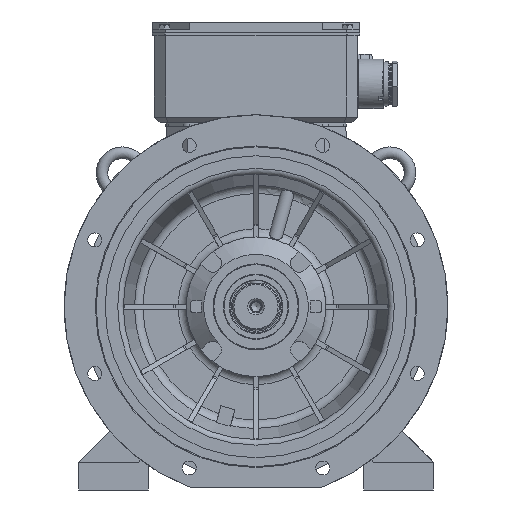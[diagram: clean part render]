
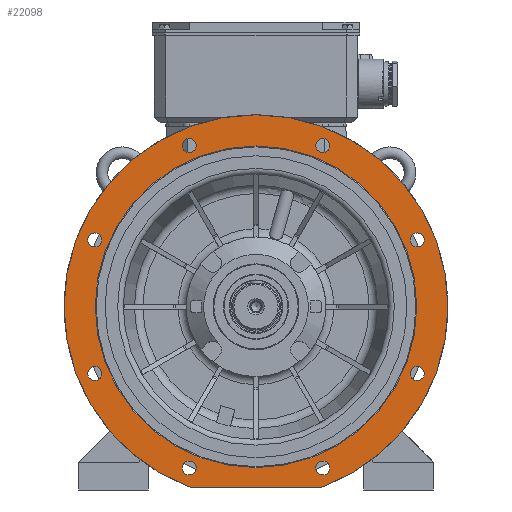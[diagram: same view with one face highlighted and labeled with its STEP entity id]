
A CAD part, front view. The second image highlights one B-rep face of the part: STEP entity #22098.
In plain terms, the highlighted planar face has unit normal (0, -1, 0).
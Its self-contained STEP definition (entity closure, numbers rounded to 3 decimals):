
#1244=LINE('',#41488,#3182);
#3182=VECTOR('',#34831,1000.);
#6511=ORIENTED_EDGE('',*,*,#11713,.F.);
#6512=ORIENTED_EDGE('',*,*,#11715,.F.);
#6513=ORIENTED_EDGE('',*,*,#11717,.F.);
#6514=ORIENTED_EDGE('',*,*,#11719,.F.);
#6515=ORIENTED_EDGE('',*,*,#11721,.F.);
#6516=ORIENTED_EDGE('',*,*,#11723,.F.);
#6517=ORIENTED_EDGE('',*,*,#11725,.F.);
#6518=ORIENTED_EDGE('',*,*,#11727,.F.);
#6519=ORIENTED_EDGE('',*,*,#12279,.F.);
#6520=ORIENTED_EDGE('',*,*,#11962,.T.);
#6521=ORIENTED_EDGE('',*,*,#11945,.F.);
#6522=ORIENTED_EDGE('',*,*,#11959,.T.);
#6523=ORIENTED_EDGE('',*,*,#11955,.F.);
#11713=EDGE_CURVE('',#14901,#14901,#17076,.T.);
#11715=EDGE_CURVE('',#14903,#14903,#17078,.T.);
#11717=EDGE_CURVE('',#14905,#14905,#17080,.T.);
#11719=EDGE_CURVE('',#14907,#14907,#17082,.T.);
#11721=EDGE_CURVE('',#14909,#14909,#17084,.T.);
#11723=EDGE_CURVE('',#14911,#14911,#17086,.T.);
#11725=EDGE_CURVE('',#14913,#14913,#17088,.T.);
#11727=EDGE_CURVE('',#14915,#14915,#17090,.T.);
#11945=EDGE_CURVE('',#15085,#15086,#1244,.T.);
#11955=EDGE_CURVE('',#15094,#15095,#17147,.T.);
#11959=EDGE_CURVE('',#15085,#15095,#17149,.F.);
#11962=EDGE_CURVE('',#15094,#15086,#17150,.F.);
#12279=EDGE_CURVE('',#15284,#15284,#17223,.T.);
#14901=VERTEX_POINT('',#40977);
#14903=VERTEX_POINT('',#40982);
#14905=VERTEX_POINT('',#40987);
#14907=VERTEX_POINT('',#40992);
#14909=VERTEX_POINT('',#40997);
#14911=VERTEX_POINT('',#41002);
#14913=VERTEX_POINT('',#41007);
#14915=VERTEX_POINT('',#41012);
#15085=VERTEX_POINT('',#41487);
#15086=VERTEX_POINT('',#41489);
#15094=VERTEX_POINT('',#41508);
#15095=VERTEX_POINT('',#41509);
#15284=VERTEX_POINT('',#42644);
#17076=CIRCLE('',#31807,12.);
#17078=CIRCLE('',#31810,12.);
#17080=CIRCLE('',#31813,12.);
#17082=CIRCLE('',#31816,12.);
#17084=CIRCLE('',#31819,12.);
#17086=CIRCLE('',#31822,12.);
#17088=CIRCLE('',#31825,12.);
#17090=CIRCLE('',#31828,12.);
#17147=CIRCLE('',#31955,330.);
#17149=CIRCLE('',#31958,3.);
#17150=CIRCLE('',#31961,3.);
#17223=CIRCLE('',#32170,276.4);
#18196=EDGE_LOOP('',(#6511));
#18197=EDGE_LOOP('',(#6512));
#18198=EDGE_LOOP('',(#6513));
#18199=EDGE_LOOP('',(#6514));
#18200=EDGE_LOOP('',(#6515));
#18201=EDGE_LOOP('',(#6516));
#18202=EDGE_LOOP('',(#6517));
#18203=EDGE_LOOP('',(#6518));
#18204=EDGE_LOOP('',(#6519));
#18205=EDGE_LOOP('',(#6520,#6521,#6522,#6523));
#19762=FACE_BOUND('',#18196,.T.);
#19763=FACE_BOUND('',#18197,.T.);
#19764=FACE_BOUND('',#18198,.T.);
#19765=FACE_BOUND('',#18199,.T.);
#19766=FACE_BOUND('',#18200,.T.);
#19767=FACE_BOUND('',#18201,.T.);
#19768=FACE_BOUND('',#18202,.T.);
#19769=FACE_BOUND('',#18203,.T.);
#19770=FACE_BOUND('',#18204,.T.);
#19771=FACE_BOUND('',#18205,.T.);
#21119=PLANE('',#32169);
#22098=ADVANCED_FACE('',(#19762,#19763,#19764,#19765,#19766,#19767,#19768,
#19769,#19770,#19771),#21119,.F.);
#31807=AXIS2_PLACEMENT_3D('',#40976,#34404,#34405);
#31810=AXIS2_PLACEMENT_3D('',#40981,#34410,#34411);
#31813=AXIS2_PLACEMENT_3D('',#40986,#34416,#34417);
#31816=AXIS2_PLACEMENT_3D('',#40991,#34422,#34423);
#31819=AXIS2_PLACEMENT_3D('',#40996,#34428,#34429);
#31822=AXIS2_PLACEMENT_3D('',#41001,#34434,#34435);
#31825=AXIS2_PLACEMENT_3D('',#41006,#34440,#34441);
#31828=AXIS2_PLACEMENT_3D('',#41011,#34446,#34447);
#31955=AXIS2_PLACEMENT_3D('',#41507,#34843,#34844);
#31958=AXIS2_PLACEMENT_3D('',#41516,#34851,#34852);
#31961=AXIS2_PLACEMENT_3D('',#41524,#34857,#34858);
#32169=AXIS2_PLACEMENT_3D('',#42642,#35407,#35408);
#32170=AXIS2_PLACEMENT_3D('',#42643,#35409,#35410);
#34404=DIRECTION('',(0.,-1.,0.));
#34405=DIRECTION('',(1.,0.,0.));
#34410=DIRECTION('',(0.,-1.,0.));
#34411=DIRECTION('',(1.,0.,0.));
#34416=DIRECTION('',(0.,-1.,0.));
#34417=DIRECTION('',(1.,0.,0.));
#34422=DIRECTION('',(0.,-1.,0.));
#34423=DIRECTION('',(1.,0.,0.));
#34428=DIRECTION('',(0.,-1.,0.));
#34429=DIRECTION('',(1.,0.,0.));
#34434=DIRECTION('',(0.,-1.,0.));
#34435=DIRECTION('',(1.,0.,0.));
#34440=DIRECTION('',(0.,-1.,0.));
#34441=DIRECTION('',(1.,0.,0.));
#34446=DIRECTION('',(0.,-1.,0.));
#34447=DIRECTION('',(1.,0.,0.));
#34831=DIRECTION('',(-1.,0.,0.));
#34843=DIRECTION('',(0.,1.,0.));
#34844=DIRECTION('',(0.,0.,1.));
#34851=DIRECTION('',(0.,1.,0.));
#34852=DIRECTION('',(0.,0.,1.));
#34857=DIRECTION('',(0.,1.,0.));
#34858=DIRECTION('',(0.,0.,1.));
#35407=DIRECTION('',(0.,1.,0.));
#35408=DIRECTION('',(0.,0.,1.));
#35409=DIRECTION('',(0.,-1.,0.));
#35410=DIRECTION('',(0.,0.,-1.));
#40976=CARTESIAN_POINT('',(-277.164,-103.997,114.805));
#40977=CARTESIAN_POINT('',(-265.164,-103.997,114.805));
#40981=CARTESIAN_POINT('',(-277.164,-103.997,-114.805));
#40982=CARTESIAN_POINT('',(-265.164,-103.997,-114.805));
#40986=CARTESIAN_POINT('',(-114.805,-103.997,-277.164));
#40987=CARTESIAN_POINT('',(-102.805,-103.997,-277.164));
#40991=CARTESIAN_POINT('',(114.805,-103.997,-277.164));
#40992=CARTESIAN_POINT('',(126.805,-103.997,-277.164));
#40996=CARTESIAN_POINT('',(277.164,-103.997,-114.805));
#40997=CARTESIAN_POINT('',(289.164,-103.997,-114.805));
#41001=CARTESIAN_POINT('',(277.164,-103.997,114.805));
#41002=CARTESIAN_POINT('',(289.164,-103.997,114.805));
#41006=CARTESIAN_POINT('',(114.805,-103.997,277.164));
#41007=CARTESIAN_POINT('',(126.805,-103.997,277.164));
#41011=CARTESIAN_POINT('',(-114.805,-103.997,277.164));
#41012=CARTESIAN_POINT('',(-102.805,-103.997,277.164));
#41487=CARTESIAN_POINT('',(112.606,-103.997,-310.));
#41488=CARTESIAN_POINT('',(-113.137,-103.997,-310.));
#41489=CARTESIAN_POINT('',(-112.606,-103.997,-310.));
#41507=CARTESIAN_POINT('',(0.,-103.997,0.));
#41508=CARTESIAN_POINT('',(-113.639,-103.997,-309.817));
#41509=CARTESIAN_POINT('',(113.639,-103.997,-309.817));
#41516=CARTESIAN_POINT('',(112.606,-103.997,-307.));
#41524=CARTESIAN_POINT('',(-112.606,-103.997,-307.));
#42642=CARTESIAN_POINT('',(0.,-103.997,276.4));
#42643=CARTESIAN_POINT('',(0.,-103.997,0.));
#42644=CARTESIAN_POINT('',(0.,-103.997,-276.4));
